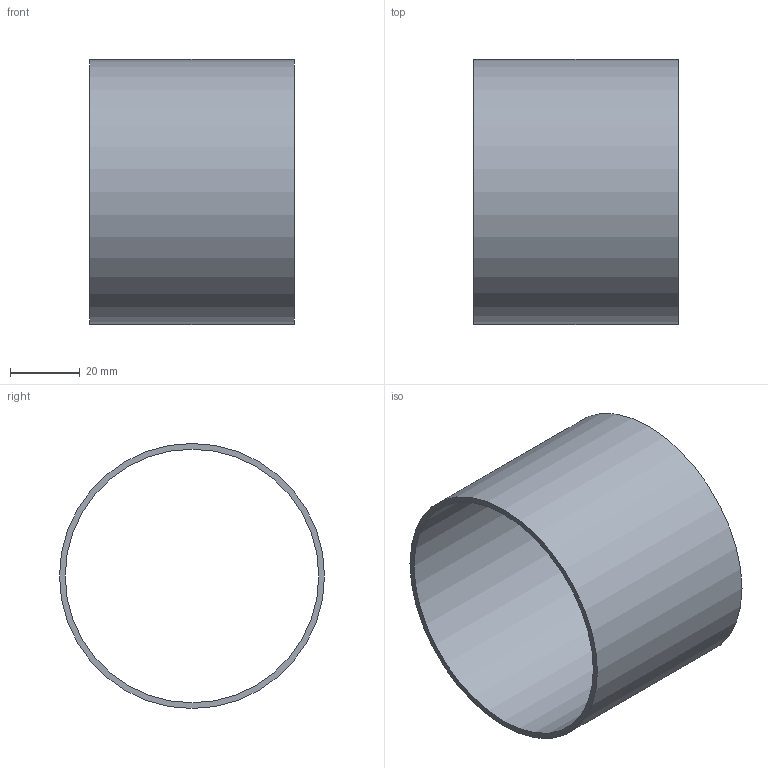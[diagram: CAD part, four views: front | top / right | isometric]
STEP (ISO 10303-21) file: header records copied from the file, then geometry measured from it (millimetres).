
FILE_DESCRIPTION(('Open CASCADE Model'),'2;1');
FILE_NAME('Open CASCADE Shape Model','2026-10-31T23:30:31',('Author'),( 'Open CASCADE'),'Open CASCADE STEP processor 7.9','Open CASCADE 7.9' ,'Unknown');
FILE_SCHEMA(('AUTOMOTIVE_DESIGN { 1 0 10303 214 1 1 1 1 }'));
Length unit declared in the file: millimetre
Products named in the file (1): Open CASCADE STEP translator 7.9 1
Bounding box: 58.8 x 76.2 x 76.2 mm (x, y, z)
Volume: 22722.6 mm3; surface area: 28315.5 mm2
Topology: 1 solids, 1 shells, 4 faces, 6 edges, 4 vertices
Faces by surface type: cylinder 2, plane 2
Full cylindrical faces by diameter (mm): 72.9 x1, 76.2 x1
Entity records: 186 total; most frequent: DIRECTION 32, CARTESIAN_POINT 27, ORIENTED_EDGE 12, PCURVE 12, DEFINITIONAL_REPRESENTATION 12, LINE 10, VECTOR 10, AXIS2_PLACEMENT_3D 9
